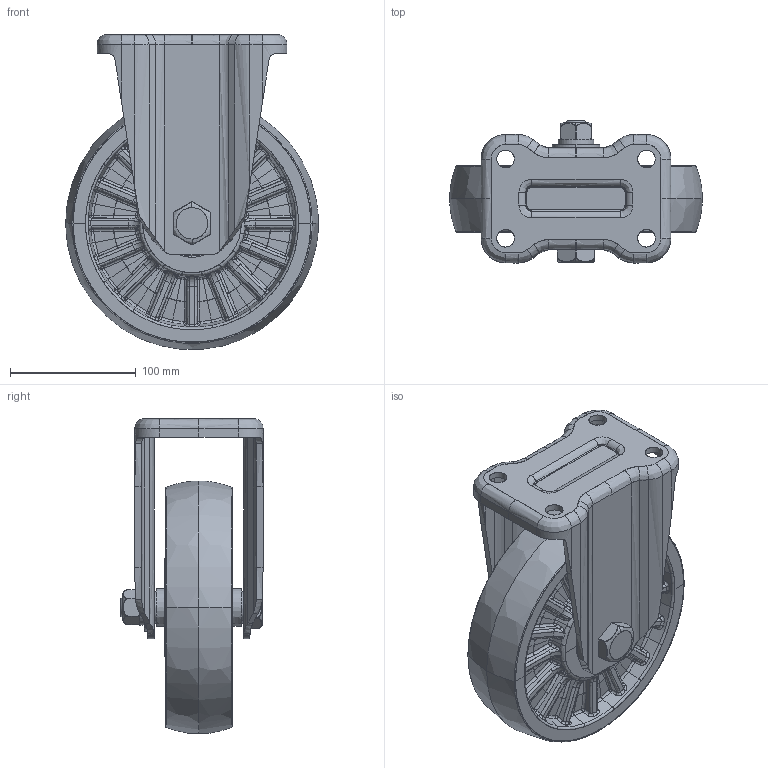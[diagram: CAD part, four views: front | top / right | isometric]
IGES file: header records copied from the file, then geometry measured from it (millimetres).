
Start section: JAMA-IS VERSION  1.0
Global section: file name: C:\CAM-TOOL data\ToolsFile\INOAC車輪\1月\HE-200WK\HE-200WK-ALL.igs; native system: CAM-TOOL; preprocessor: C3out Version 11.1.1.50212 (2015/02/12); author: NONE; organization: NONE; date: 240208.105340; units: millimetre
Bounding box: 201 x 113 x 250.21 mm (x, y, z)
Surface area: 281900.9 mm2 (no closed solid volume)
Topology: 0 solids, 0 shells, 1840 faces, 16077 edges, 17088 vertices
Faces by surface type: bspline 1840
